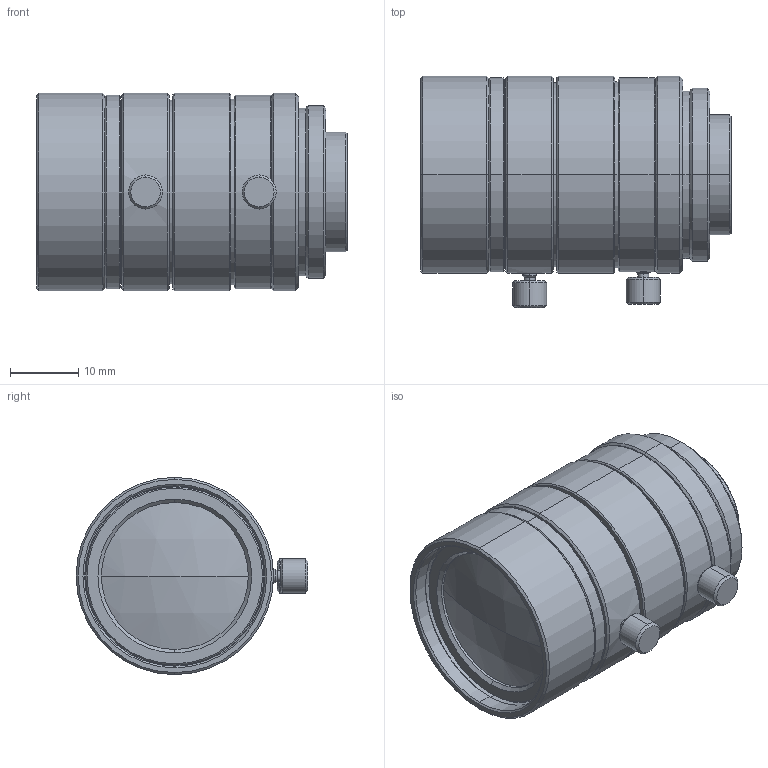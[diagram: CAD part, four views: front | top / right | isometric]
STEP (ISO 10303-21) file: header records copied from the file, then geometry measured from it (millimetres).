
FILE_DESCRIPTION (( 'STEP AP203' ), '1' );
FILE_NAME ('VS-0818VM.STEP', '2016-05-10T00:03:13', ( '' ), ( '' ), 'SwSTEP 2.0', 'SolidWorks 2016', '' );
FILE_SCHEMA (( 'CONFIG_CONTROL_DESIGN' ));
Length unit declared in the file: millimetre
Products named in the file (1): VS-0818VM
Bounding box: 45.64 x 34.05 x 29 mm (x, y, z)
Volume: 26199.5 mm3; surface area: 7233.6 mm2
Topology: 1 solids, 1 shells, 130 faces, 262 edges, 154 vertices
Faces by surface type: cone 58, cylinder 48, plane 20, sphere 4
Entity records: 3515 total; most frequent: DIRECTION 672, CARTESIAN_POINT 611, ORIENTED_EDGE 524, AXIS2_PLACEMENT_3D 283, EDGE_CURVE 262, VERTEX_POINT 154, CIRCLE 152, EDGE_LOOP 150
